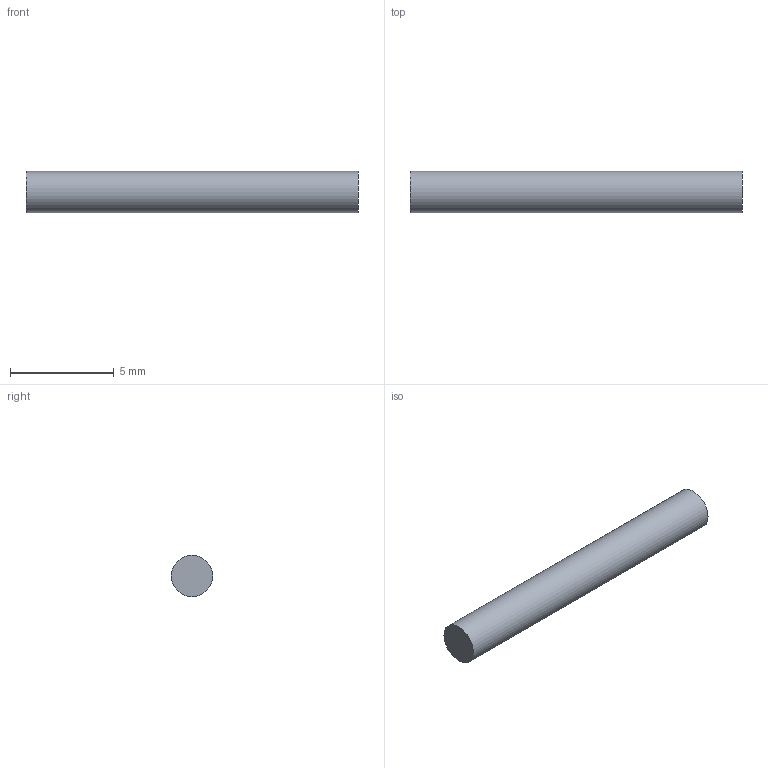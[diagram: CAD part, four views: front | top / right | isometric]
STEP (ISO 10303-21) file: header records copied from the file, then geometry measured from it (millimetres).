
FILE_DESCRIPTION(('Open CASCADE Model'),'2;1');
FILE_NAME('Open CASCADE Shape Model','2026-11-25T23:20:23',('Author'),( 'Open CASCADE'),'Open CASCADE STEP processor 7.9','build123d', 'Unknown');
FILE_SCHEMA(('AUTOMOTIVE_DESIGN { 1 0 10303 214 1 1 1 1 }'));
Length unit declared in the file: millimetre
Products named in the file (1): SOLID
Bounding box: 16 x 2 x 2 mm (x, y, z)
Volume: 50.3 mm3; surface area: 106.8 mm2
Topology: 1 solids, 1 shells, 3 faces, 3 edges, 2 vertices
Faces by surface type: plane 2, cylinder 1
Full cylindrical faces by diameter (mm): 2 x1
Entity records: 108 total; most frequent: DIRECTION 19, CARTESIAN_POINT 15, AXIS2_PLACEMENT_3D 6, ORIENTED_EDGE 6, PCURVE 6, DEFINITIONAL_REPRESENTATION 6, LINE 5, VECTOR 5
